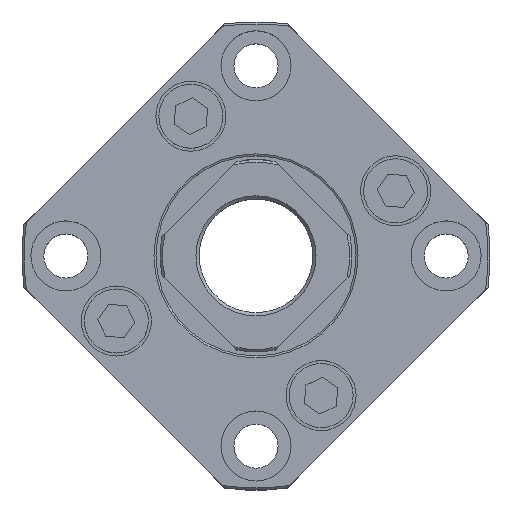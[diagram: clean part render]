
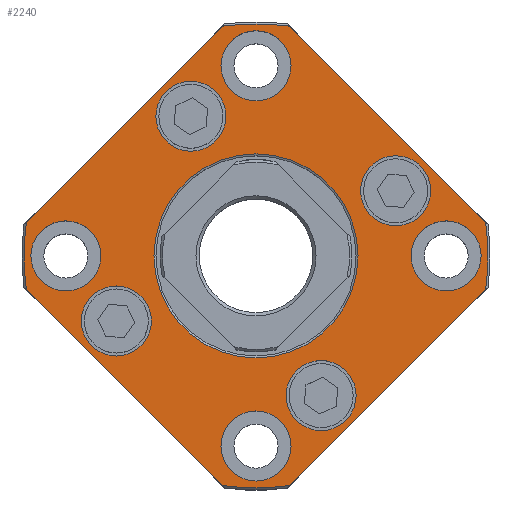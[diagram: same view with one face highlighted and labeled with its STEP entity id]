
A CAD part, top view. The second image highlights one B-rep face of the part: STEP entity #2240.
In plain terms, the highlighted planar face has unit normal (0, 0, 1) as drawn and (-1, 0, 0) by its records, which use the part's own axes.
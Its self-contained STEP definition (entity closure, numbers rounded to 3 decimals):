
#169=LINE('',#3452,#323);
#173=LINE('',#3471,#327);
#177=LINE('',#3490,#331);
#181=LINE('',#3509,#335);
#323=VECTOR('',#2737,1000.);
#327=VECTOR('',#2743,1000.);
#331=VECTOR('',#2749,1000.);
#335=VECTOR('',#2755,1000.);
#505=ORIENTED_EDGE('',*,*,#1107,.T.);
#506=ORIENTED_EDGE('',*,*,#1108,.T.);
#507=ORIENTED_EDGE('',*,*,#1109,.T.);
#508=ORIENTED_EDGE('',*,*,#1110,.T.);
#509=ORIENTED_EDGE('',*,*,#1111,.T.);
#510=ORIENTED_EDGE('',*,*,#1112,.T.);
#511=ORIENTED_EDGE('',*,*,#1113,.T.);
#512=ORIENTED_EDGE('',*,*,#1114,.T.);
#513=ORIENTED_EDGE('',*,*,#1115,.T.);
#514=ORIENTED_EDGE('',*,*,#1104,.F.);
#515=ORIENTED_EDGE('',*,*,#1116,.F.);
#516=ORIENTED_EDGE('',*,*,#1098,.F.);
#517=ORIENTED_EDGE('',*,*,#1117,.F.);
#518=ORIENTED_EDGE('',*,*,#1092,.F.);
#519=ORIENTED_EDGE('',*,*,#1118,.F.);
#520=ORIENTED_EDGE('',*,*,#1086,.F.);
#521=ORIENTED_EDGE('',*,*,#1119,.F.);
#1086=EDGE_CURVE('',#1387,#1388,#169,.T.);
#1092=EDGE_CURVE('',#1393,#1394,#173,.T.);
#1098=EDGE_CURVE('',#1399,#1400,#177,.T.);
#1104=EDGE_CURVE('',#1405,#1406,#181,.T.);
#1107=EDGE_CURVE('',#1408,#1408,#1583,.T.);
#1108=EDGE_CURVE('',#1409,#1409,#1584,.T.);
#1109=EDGE_CURVE('',#1410,#1410,#1585,.T.);
#1110=EDGE_CURVE('',#1411,#1411,#1586,.T.);
#1111=EDGE_CURVE('',#1412,#1412,#1587,.T.);
#1112=EDGE_CURVE('',#1413,#1413,#1588,.T.);
#1113=EDGE_CURVE('',#1414,#1414,#1589,.T.);
#1114=EDGE_CURVE('',#1415,#1415,#1590,.T.);
#1115=EDGE_CURVE('',#1416,#1416,#1591,.T.);
#1116=EDGE_CURVE('',#1400,#1405,#1592,.T.);
#1117=EDGE_CURVE('',#1394,#1399,#1593,.T.);
#1118=EDGE_CURVE('',#1388,#1393,#1594,.T.);
#1119=EDGE_CURVE('',#1406,#1387,#1595,.T.);
#1387=VERTEX_POINT('',#3451);
#1388=VERTEX_POINT('',#3453);
#1393=VERTEX_POINT('',#3470);
#1394=VERTEX_POINT('',#3472);
#1399=VERTEX_POINT('',#3489);
#1400=VERTEX_POINT('',#3491);
#1405=VERTEX_POINT('',#3508);
#1406=VERTEX_POINT('',#3510);
#1408=VERTEX_POINT('',#3519);
#1409=VERTEX_POINT('',#3521);
#1410=VERTEX_POINT('',#3523);
#1411=VERTEX_POINT('',#3525);
#1412=VERTEX_POINT('',#3527);
#1413=VERTEX_POINT('',#3529);
#1414=VERTEX_POINT('',#3531);
#1415=VERTEX_POINT('',#3533);
#1416=VERTEX_POINT('',#3535);
#1583=CIRCLE('',#2434,8.75);
#1584=CIRCLE('',#2435,8.75);
#1585=CIRCLE('',#2436,8.75);
#1586=CIRCLE('',#2437,8.75);
#1587=CIRCLE('',#2438,8.75);
#1588=CIRCLE('',#2439,8.75);
#1589=CIRCLE('',#2440,8.75);
#1590=CIRCLE('',#2441,8.75);
#1591=CIRCLE('',#2442,25.5);
#1592=CIRCLE('',#2443,58.);
#1593=CIRCLE('',#2444,58.);
#1594=CIRCLE('',#2445,58.);
#1595=CIRCLE('',#2446,58.);
#1704=EDGE_LOOP('',(#505));
#1705=EDGE_LOOP('',(#506));
#1706=EDGE_LOOP('',(#507));
#1707=EDGE_LOOP('',(#508));
#1708=EDGE_LOOP('',(#509));
#1709=EDGE_LOOP('',(#510));
#1710=EDGE_LOOP('',(#511));
#1711=EDGE_LOOP('',(#512));
#1712=EDGE_LOOP('',(#513));
#1713=EDGE_LOOP('',(#514,#515,#516,#517,#518,#519,#520,#521));
#1934=FACE_BOUND('',#1704,.T.);
#1935=FACE_BOUND('',#1705,.T.);
#1936=FACE_BOUND('',#1706,.T.);
#1937=FACE_BOUND('',#1707,.T.);
#1938=FACE_BOUND('',#1708,.T.);
#1939=FACE_BOUND('',#1709,.T.);
#1940=FACE_BOUND('',#1710,.T.);
#1941=FACE_BOUND('',#1711,.T.);
#1942=FACE_BOUND('',#1712,.T.);
#1943=FACE_BOUND('',#1713,.T.);
#2159=PLANE('',#2433);
#2240=ADVANCED_FACE('',(#1934,#1935,#1936,#1937,#1938,#1939,#1940,#1941,
#1942,#1943),#2159,.F.);
#2433=AXIS2_PLACEMENT_3D('',#3517,#2757,#2758);
#2434=AXIS2_PLACEMENT_3D('',#3518,#2759,#2760);
#2435=AXIS2_PLACEMENT_3D('',#3520,#2761,#2762);
#2436=AXIS2_PLACEMENT_3D('',#3522,#2763,#2764);
#2437=AXIS2_PLACEMENT_3D('',#3524,#2765,#2766);
#2438=AXIS2_PLACEMENT_3D('',#3526,#2767,#2768);
#2439=AXIS2_PLACEMENT_3D('',#3528,#2769,#2770);
#2440=AXIS2_PLACEMENT_3D('',#3530,#2771,#2772);
#2441=AXIS2_PLACEMENT_3D('',#3532,#2773,#2774);
#2442=AXIS2_PLACEMENT_3D('',#3534,#2775,#2776);
#2443=AXIS2_PLACEMENT_3D('',#3536,#2777,#2778);
#2444=AXIS2_PLACEMENT_3D('',#3537,#2779,#2780);
#2445=AXIS2_PLACEMENT_3D('',#3538,#2781,#2782);
#2446=AXIS2_PLACEMENT_3D('',#3539,#2783,#2784);
#2737=DIRECTION('',(0.,-0.707,-0.707));
#2743=DIRECTION('',(0.,0.707,-0.707));
#2749=DIRECTION('',(0.,0.707,0.707));
#2755=DIRECTION('',(0.,-0.707,0.707));
#2757=DIRECTION('',(1.,0.,0.));
#2758=DIRECTION('',(0.,0.,-1.));
#2759=DIRECTION('',(1.,0.,0.));
#2760=DIRECTION('',(0.,0.,-1.));
#2761=DIRECTION('',(1.,0.,0.));
#2762=DIRECTION('',(0.,0.,-1.));
#2763=DIRECTION('',(1.,0.,0.));
#2764=DIRECTION('',(0.,0.,-1.));
#2765=DIRECTION('',(1.,0.,0.));
#2766=DIRECTION('',(0.,0.,-1.));
#2767=DIRECTION('',(1.,0.,0.));
#2768=DIRECTION('',(0.,0.,-1.));
#2769=DIRECTION('',(1.,0.,0.));
#2770=DIRECTION('',(0.,0.,-1.));
#2771=DIRECTION('',(1.,0.,0.));
#2772=DIRECTION('',(0.,0.,-1.));
#2773=DIRECTION('',(1.,0.,0.));
#2774=DIRECTION('',(0.,0.,-1.));
#2775=DIRECTION('',(1.,0.,0.));
#2776=DIRECTION('',(0.,0.,-1.));
#2777=DIRECTION('',(1.,0.,0.));
#2778=DIRECTION('',(0.,0.,-1.));
#2779=DIRECTION('',(1.,0.,0.));
#2780=DIRECTION('',(0.,0.,-1.));
#2781=DIRECTION('',(1.,0.,0.));
#2782=DIRECTION('',(0.,0.,-1.));
#2783=DIRECTION('',(1.,0.,0.));
#2784=DIRECTION('',(0.,0.,-1.));
#3451=CARTESIAN_POINT('',(-30.,-8.368,57.393));
#3452=CARTESIAN_POINT('',(-30.,0.,65.761));
#3453=CARTESIAN_POINT('',(-30.,-57.393,8.368));
#3470=CARTESIAN_POINT('',(-30.,-57.393,-8.368));
#3471=CARTESIAN_POINT('',(-30.,-65.761,0.));
#3472=CARTESIAN_POINT('',(-30.,-8.368,-57.393));
#3489=CARTESIAN_POINT('',(-30.,8.368,-57.393));
#3490=CARTESIAN_POINT('',(-30.,0.,-65.761));
#3491=CARTESIAN_POINT('',(-30.,57.393,-8.368));
#3508=CARTESIAN_POINT('',(-30.,57.393,8.368));
#3509=CARTESIAN_POINT('',(-30.,65.761,0.));
#3510=CARTESIAN_POINT('',(-30.,8.368,57.393));
#3517=CARTESIAN_POINT('',(-30.,25.,0.));
#3518=CARTESIAN_POINT('',(-30.,-16.271,-34.893));
#3519=CARTESIAN_POINT('',(-30.,-16.271,-43.643));
#3520=CARTESIAN_POINT('',(-30.,16.271,34.893));
#3521=CARTESIAN_POINT('',(-30.,16.271,26.143));
#3522=CARTESIAN_POINT('',(-30.,-34.893,16.271));
#3523=CARTESIAN_POINT('',(-30.,-34.893,7.521));
#3524=CARTESIAN_POINT('',(-30.,34.893,-16.271));
#3525=CARTESIAN_POINT('',(-30.,34.893,-25.021));
#3526=CARTESIAN_POINT('',(-30.,0.,47.5));
#3527=CARTESIAN_POINT('',(-30.,0.,38.75));
#3528=CARTESIAN_POINT('',(-30.,-47.5,0.));
#3529=CARTESIAN_POINT('',(-30.,-47.5,-8.75));
#3530=CARTESIAN_POINT('',(-30.,0.,-47.5));
#3531=CARTESIAN_POINT('',(-30.,0.,-56.25));
#3532=CARTESIAN_POINT('',(-30.,47.5,0.));
#3533=CARTESIAN_POINT('',(-30.,47.5,-8.75));
#3534=CARTESIAN_POINT('',(-30.,0.,0.));
#3535=CARTESIAN_POINT('',(-30.,0.,-25.5));
#3536=CARTESIAN_POINT('',(-30.,0.,0.));
#3537=CARTESIAN_POINT('',(-30.,0.,0.));
#3538=CARTESIAN_POINT('',(-30.,0.,0.));
#3539=CARTESIAN_POINT('',(-30.,0.,0.));
